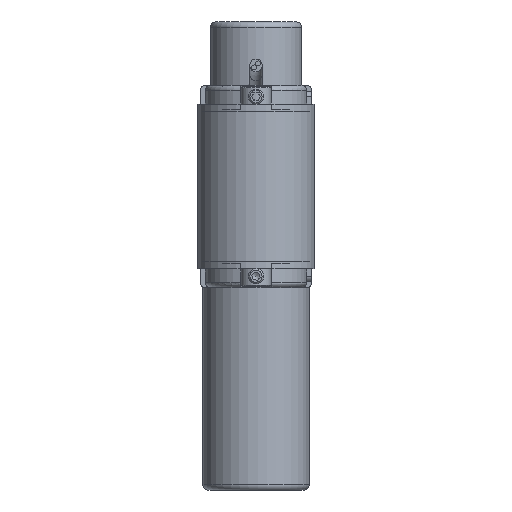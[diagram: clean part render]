
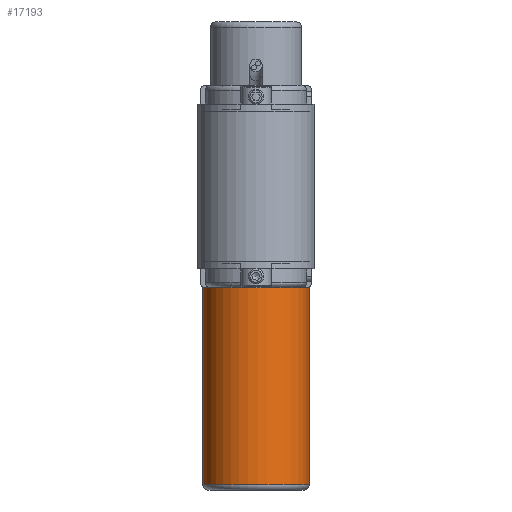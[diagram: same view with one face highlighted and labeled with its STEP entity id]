
A CAD part, front view. The second image highlights one B-rep face of the part: STEP entity #17193.
In plain terms, the highlighted cylindrical face has radius 21 mm (diameter 42 mm), a full revolution.
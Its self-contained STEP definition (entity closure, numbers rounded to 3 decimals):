
#1921=FACE_OUTER_BOUND('',#2929,.T.);
#2929=EDGE_LOOP('',(#15117,#15118,#15119,#15120,#15121,#15122,#15123,#15124));
#4203=LINE('',#29829,#5474);
#5474=VECTOR('',#23573,21.);
#6317=CIRCLE('',#18921,21.);
#6318=CIRCLE('',#18922,21.);
#6319=CIRCLE('',#18923,21.);
#6322=CIRCLE('',#18928,21.);
#6323=CIRCLE('',#18929,21.);
#6324=CIRCLE('',#18930,21.);
#7956=VERTEX_POINT('',#29810);
#7957=VERTEX_POINT('',#29812);
#7958=VERTEX_POINT('',#29814);
#7961=VERTEX_POINT('',#29824);
#7962=VERTEX_POINT('',#29825);
#7963=VERTEX_POINT('',#29827);
#10343=EDGE_CURVE('',#7957,#7956,#6317,.T.);
#10344=EDGE_CURVE('',#7958,#7957,#6318,.T.);
#10345=EDGE_CURVE('',#7956,#7958,#6319,.T.);
#10349=EDGE_CURVE('',#7961,#7962,#6322,.T.);
#10350=EDGE_CURVE('',#7963,#7961,#6323,.T.);
#10351=EDGE_CURVE('',#7963,#7957,#4203,.T.);
#10352=EDGE_CURVE('',#7962,#7963,#6324,.T.);
#15117=ORIENTED_EDGE('',*,*,#10349,.F.);
#15118=ORIENTED_EDGE('',*,*,#10350,.F.);
#15119=ORIENTED_EDGE('',*,*,#10351,.T.);
#15120=ORIENTED_EDGE('',*,*,#10343,.T.);
#15121=ORIENTED_EDGE('',*,*,#10345,.T.);
#15122=ORIENTED_EDGE('',*,*,#10344,.T.);
#15123=ORIENTED_EDGE('',*,*,#10351,.F.);
#15124=ORIENTED_EDGE('',*,*,#10352,.F.);
#15414=CYLINDRICAL_SURFACE('',#18927,21.);
#17193=ADVANCED_FACE('',(#1921),#15414,.T.);
#18921=AXIS2_PLACEMENT_3D('',#29813,#23554,#23555);
#18922=AXIS2_PLACEMENT_3D('',#29815,#23556,#23557);
#18923=AXIS2_PLACEMENT_3D('',#29816,#23558,#23559);
#18927=AXIS2_PLACEMENT_3D('',#29823,#23567,#23568);
#18928=AXIS2_PLACEMENT_3D('',#29826,#23569,#23570);
#18929=AXIS2_PLACEMENT_3D('',#29828,#23571,#23572);
#18930=AXIS2_PLACEMENT_3D('',#29830,#23574,#23575);
#23554=DIRECTION('center_axis',(0.,0.,
-1.));
#23555=DIRECTION('ref_axis',(-0.667,0.745,0.));
#23556=DIRECTION('center_axis',(0.,0.,
-1.));
#23557=DIRECTION('ref_axis',(-0.667,0.745,0.));
#23558=DIRECTION('center_axis',(0.,0.,
-1.));
#23559=DIRECTION('ref_axis',(-0.667,0.745,0.));
#23567=DIRECTION('center_axis',(0.,0.,
-1.));
#23568=DIRECTION('ref_axis',(-0.667,0.745,0.));
#23569=DIRECTION('center_axis',(0.,0.,
-1.));
#23570=DIRECTION('ref_axis',(-0.667,0.745,0.));
#23571=DIRECTION('center_axis',(0.,0.,
-1.));
#23572=DIRECTION('ref_axis',(-0.667,0.745,0.));
#23573=DIRECTION('',(0.,0.,1.));
#23574=DIRECTION('center_axis',(0.,0.,
-1.));
#23575=DIRECTION('ref_axis',(-0.667,0.745,0.));
#29810=CARTESIAN_POINT('',(-15.649,54.896,-40.));
#29812=CARTESIAN_POINT('',(14.004,53.251,-40.));
#29813=CARTESIAN_POINT('Origin',(0.,68.9,-40.));
#29814=CARTESIAN_POINT('',(-14.004,84.549,-40.));
#29815=CARTESIAN_POINT('Origin',(0.,68.9,-40.));
#29816=CARTESIAN_POINT('Origin',(0.,68.9,-40.));
#29823=CARTESIAN_POINT('Origin',(0.,68.9,-75.5));
#29824=CARTESIAN_POINT('',(-14.004,84.549,-118.));
#29825=CARTESIAN_POINT('',(15.649,82.904,-118.));
#29826=CARTESIAN_POINT('Origin',(0.,68.9,-118.));
#29827=CARTESIAN_POINT('',(14.004,53.251,-118.));
#29828=CARTESIAN_POINT('Origin',(0.,68.9,-118.));
#29829=CARTESIAN_POINT('',(14.004,53.251,-75.5));
#29830=CARTESIAN_POINT('Origin',(0.,68.9,-118.));
